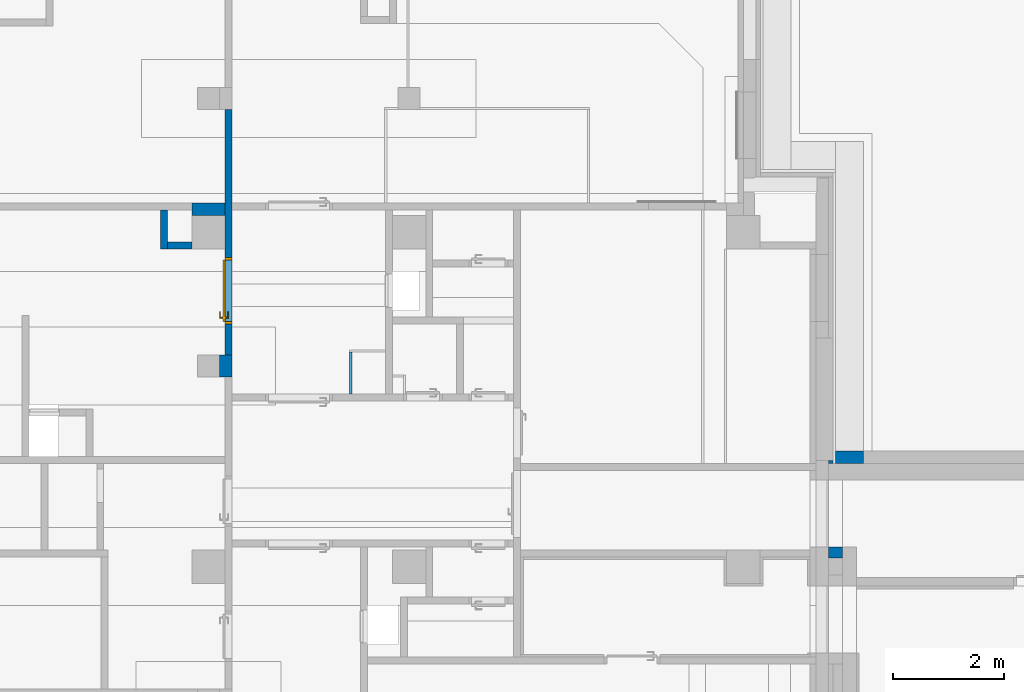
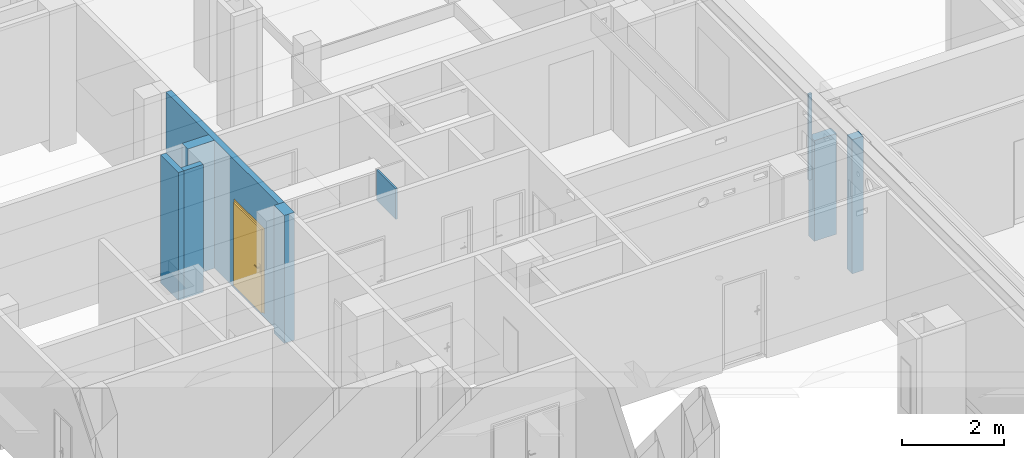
# One storey, part 36 of 84: 9 walls, 1 door, 1 opening.
"""IFC4 building model written with IfcOpenShell, lengths in metres."""

from ifc_helpers import new_model, entity, si_unit, converted_unit, derived_unit, frame, frame_2d, origin, origin_with_axes, place, context, subcontext, project, spatial, polyline, rectangle, outline, extrude, closed_shell, open_shell, surface_model, source, transform, mapped, material, layer, layer_set, layer_usage, type_object, element, fill, save


model = new_model("IFC4")

# Units and contexts
model_context = context("Model", 3, precision=1e-05, world=origin())
body_context = subcontext(model_context, "Body", "Model", "MODEL_VIEW")
ifc_project = project(units=[si_unit("LENGTHUNIT", "METRE"), si_unit("AREAUNIT", "SQUARE_METRE"), si_unit("VOLUMEUNIT", "CUBIC_METRE"), si_unit("MASSUNIT", "GRAM", prefix="KILO"), converted_unit("PLANEANGLEUNIT", "DEGREE", entity("IfcPlaneAngleMeasure", 0.0174532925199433), si_unit("PLANEANGLEUNIT", "RADIAN"), dimensions=[0, 0, 0, 0, 0, 0, 0]), derived_unit("THERMALTRANSMITTANCEUNIT", [(si_unit("POWERUNIT", "WATT"), 1), (si_unit("THERMODYNAMICTEMPERATUREUNIT", "KELVIN"), -1), (si_unit("LENGTHUNIT", "METRE"), -2)]), derived_unit("VOLUMETRICFLOWRATEUNIT", [(si_unit("LENGTHUNIT", "METRE"), 3), (converted_unit("TIMEUNIT", "hour", entity("IfcTimeMeasure", 3600.0), si_unit("TIMEUNIT", "SECOND"), dimensions=[0, 0, 1, 0, 0, 0, 0]), -1), (si_unit("LENGTHUNIT", "METRE"), -1)])], contexts=[model_context])

# Site, building, storey
site_placement = place(None, origin())
site = spatial("IfcSite", under=ifc_project, at=site_placement, Name="3. ASŘ", CompositionType="ELEMENT")
building_placement = place(site_placement, origin())
building = spatial("IfcBuilding", under=site, at=building_placement, Name="Pavilon C", CompositionType="ELEMENT")
storey_placement = place(building_placement, frame((0.0, 0.0, -3.3)))
storey = spatial("IfcBuildingStorey", under=building, at=storey_placement, Name="Půdorys 1.PP", CompositionType="ELEMENT", Elevation=-3.3)

# Walls
ifc_material_1 = material(Name="ZDIVO Z CDm")
ifc_layer_1 = layer(ifc_material_1, 0.225)
ifc_layer_set_1 = layer_set([ifc_layer_1])
ifc_layer_usage_1 = layer_usage(ifc_layer_set_1, "AXIS2", "POSITIVE", 0.0)
wall_1_placement = place(storey_placement, frame((40.05, 19.5, -0.1)))
element("IfcWall", 1, at=wall_1_placement, inside=storey, material=ifc_layer_usage_1, Name="ZDIVO Z CDm", context=body_context, shape_type="SweptSolid", body=[
    extrude(rectangle(XDim=0.6, YDim=0.225, at=frame_2d((0.3, 0.1125), x_axis=(1.0, 0.0))), origin_with_axes(), (0.0, 0.0, 1.0), 3.05),
])
ifc_material_2 = material(Name="SDK SVISLA CAST PODHLEDU")
ifc_layer_2 = layer(ifc_material_2, 0.04)
ifc_layer_set_2 = layer_set([ifc_layer_2])
ifc_layer_usage_2 = layer_usage(ifc_layer_set_2, "AXIS2", "POSITIVE", 0.0)
wall_2_placement = place(storey_placement, frame((42.925, 16.3, 2.22), z_axis=(0.0, 0.0, 1.0), x_axis=(0.0, 1.0, 0.0)))
element("IfcWall", 2, at=wall_2_placement, inside=storey, material=ifc_layer_usage_2, Name="SDK SVISLA CAST PODHLEDU", context=body_context, shape_type="SweptSolid", body=[
    extrude(rectangle(XDim=0.75, YDim=0.04, at=frame_2d((0.375, 0.02), x_axis=(1.0, 0.0))), origin_with_axes(), (0.0, 0.0, 1.0), 0.73),
])
ifc_material_3 = material(Name="ZDIVO Z CDm")
ifc_layer_3 = layer(ifc_material_3, 0.225)
ifc_layer_set_3 = layer_set([ifc_layer_3])
ifc_layer_usage_3 = layer_usage(ifc_layer_set_3, "AXIS2", "POSITIVE", 0.0)
wall_3_placement = place(storey_placement, frame((40.775, 16.6, -0.1), z_axis=(0.0, 0.0, 1.0), x_axis=(0.0, 1.0, 0.0)))
element("IfcWall", 3, at=wall_3_placement, inside=storey, material=ifc_layer_usage_3, Name="ZDIVO Z CDm", context=body_context, shape_type="SweptSolid", body=[
    extrude(rectangle(XDim=0.4, YDim=0.225, at=frame_2d((0.2, 0.1125), x_axis=(1.0, 0.0))), origin_with_axes(), (0.0, 0.0, 1.0), 3.05),
])

# Wall, opening, door
ifc_material_4 = material(Name="ZDIVO Z CDm")
ifc_layer_4 = layer(ifc_material_4, 0.125)
ifc_layer_set_4 = layer_set([ifc_layer_4])
ifc_layer_usage_4 = layer_usage(ifc_layer_set_4, "AXIS2", "POSITIVE", 0.0)
wall_4_placement = place(storey_placement, frame((40.65, 21.4, -0.1), z_axis=(0.0, 0.0, 1.0), x_axis=(0.0, -1.0, 0.0)))
wall_4 = element("IfcWall", 4, at=wall_4_placement, inside=storey, material=ifc_layer_usage_4, Name="ZDIVO Z CDm", context=body_context, shape_type="SweptSolid", body=[
    extrude(rectangle(XDim=4.4, YDim=0.125, at=frame_2d((2.2, 0.0625), x_axis=(1.0, 0.0))), origin_with_axes(), (0.0, 0.0, 1.0), 3.05),
])
opening_placement = place(wall_4_placement, frame((3.85000000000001, 0.125, 0.1), z_axis=(0.0, -1.0, 0.0), x_axis=(0.0, 0.0, 1.0)))
opening = element("IfcOpeningElement", 5, at=opening_placement, cuts=wall_4, Name="Dveřní otvor", ObjectType="Opening", context=body_context, shape_type="SweptSolid", body=[
    extrude(outline(polyline([(0.0, 1.2), (2.02, 1.2), (2.02, 0.0), (0.0, 0.0), (0.0, 1.2)])), origin_with_axes(), (0.0, 0.0, 1.0), 0.125),
])
door_type = type_object("IfcDoorType", Name="D101", OperationType="NOTDEFINED", ParameterTakesPrecedence=False, PredefinedType="DOOR")
shared_shape = source(origin_with_axes(), body_context, "Body", "SurfaceModel", [
    surface_model("IfcShellBasedSurfaceModel", [(0.0, 0.125, 2.02), (0.0, 0.125, -7.65404249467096e-18), (0.05, 0.125, -7.65404249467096e-18), (0.05, 0.125, 2.02), (0.0, 0.0, 7.65404249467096e-18), (0.0, 2.41584530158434e-16, 2.02), (0.05, 2.41584530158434e-16, 2.02), (0.05, 0.0, 7.65404249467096e-18)], [closed_shell([[[0, 1, 2, 3]], [[4, 5, 6, 7]], [[1, 0, 5, 4]], [[2, 1, 4, 7]], [[3, 2, 7, 6]], [[0, 3, 6, 5]]], orient=[[False], [False], [False], [False], [False], [False]])]),
    surface_model("IfcShellBasedSurfaceModel", [(1.15, 0.125, 2.02), (1.15, 0.125, -7.65404249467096e-18), (1.2, 0.125, -7.65404249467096e-18), (1.2, 0.125, 2.02), (1.15, 0.0, 7.65404249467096e-18), (1.15, 2.41584530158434e-16, 2.02), (1.2, 2.41584530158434e-16, 2.02), (1.2, 0.0, 7.65404249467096e-18)], [closed_shell([[[0, 1, 2, 3]], [[4, 5, 6, 7]], [[1, 0, 5, 4]], [[2, 1, 4, 7]], [[3, 2, 7, 6]], [[0, 3, 6, 5]]], orient=[[False], [False], [False], [False], [False], [False]])]),
    surface_model("IfcShellBasedSurfaceModel", [(0.05, 0.125, 2.02), (0.05, 0.125, 1.97), (1.15, 0.125, 1.97), (1.15, 0.125, 2.02), (0.05, 2.41584530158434e-16, 1.97), (0.05, 2.41584530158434e-16, 2.02), (1.15, 2.41584530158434e-16, 2.02), (1.15, 2.41584530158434e-16, 1.97)], [closed_shell([[[0, 1, 2, 3]], [[4, 5, 6, 7]], [[1, 0, 5, 4]], [[2, 1, 4, 7]], [[3, 2, 7, 6]], [[0, 3, 6, 5]]], orient=[[False], [False], [False], [False], [False], [False]])]),
    surface_model("IfcShellBasedSurfaceModel", [(0.05, 0.165, 1.97), (0.05, 0.165, -1.25526296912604e-17), (1.15, 0.165, -1.25526296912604e-17), (1.15, 0.165, 1.97), (0.05, 0.125, -7.65404249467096e-18), (0.05, 0.125, 1.97), (1.15, 0.125, 1.97), (1.15, 0.125, -7.65404249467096e-18)], [closed_shell([[[0, 1, 2, 3]], [[4, 5, 6, 7]], [[1, 0, 5, 4]], [[2, 1, 4, 7]], [[3, 2, 7, 6]], [[0, 3, 6, 5]]], orient=[[False], [False], [False], [False], [False], [False]])]),
    surface_model("IfcShellBasedSurfaceModel", [(1.06, 0.125, 1.125), (1.06, 0.125, 0.91), (1.11, 0.125, 0.91), (1.11, 0.125, 1.125), (1.06, 0.115, 0.91), (1.06, 0.115, 1.125), (1.11, 0.115, 1.125), (1.11, 0.115, 0.91)], [closed_shell([[[0, 1, 2, 3]], [[4, 5, 6, 7]], [[1, 0, 5, 4]], [[2, 1, 4, 7]], [[3, 2, 7, 6]], [[0, 3, 6, 5]]], orient=[[False], [False], [False], [False], [False], [False]])]),
    surface_model("IfcShellBasedSurfaceModel", [(1.085, 0.115, 1.06), (1.08, 0.115, 1.05866025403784), (1.07633974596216, 0.115, 1.055), (1.075, 0.115, 1.05), (1.07633974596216, 0.115, 1.045), (1.08, 0.115, 1.04133974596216), (1.085, 0.115, 1.04), (1.09, 0.115, 1.04133974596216), (1.09366025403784, 0.115, 1.045), (1.095, 0.115, 1.05), (1.09366025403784, 0.115, 1.055), (1.09, 0.115, 1.05866025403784), (1.09, 0.0700000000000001, 1.05866025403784), (1.085, 0.0750000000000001, 1.06), (1.09366025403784, 0.0663397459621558, 1.055), (1.095, 0.0650000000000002, 1.05), (1.09366025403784, 0.0663397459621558, 1.045), (1.09, 0.0700000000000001, 1.04133974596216), (1.085, 0.0750000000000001, 1.04), (1.08, 0.0800000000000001, 1.04133974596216), (1.07633974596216, 0.0836602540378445, 1.045), (1.075, 0.0850000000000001, 1.05), (1.07633974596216, 0.0836602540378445, 1.055), (1.08, 0.0800000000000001, 1.05866025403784), (0.97, 0.0700000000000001, 1.05866025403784), (0.97, 0.0750000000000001, 1.06), (0.97, 0.0663397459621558, 1.055), (0.97, 0.0650000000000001, 1.05), (0.97, 0.0663397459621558, 1.045), (0.97, 0.0700000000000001, 1.04133974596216), (0.97, 0.0750000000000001, 1.04), (0.97, 0.0800000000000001, 1.04133974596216), (0.97, 0.0836602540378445, 1.045), (0.97, 0.0850000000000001, 1.05), (0.97, 0.0836602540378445, 1.055), (0.97, 0.0800000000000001, 1.05866025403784)], [open_shell([[[0, 1, 2, 3, 4, 5, 6, 7, 8, 9, 10, 11]], [[0, 11, 12, 13]], [[11, 10, 14, 12]], [[10, 9, 15, 14]], [[9, 8, 16, 15]], [[8, 7, 17, 16]], [[7, 6, 18, 17]], [[6, 5, 19, 18]], [[5, 4, 20, 19]], [[4, 3, 21, 20]], [[3, 2, 22, 21]], [[2, 1, 23, 22]], [[1, 0, 13, 23]], [[13, 12, 24, 25]], [[12, 14, 26, 24]], [[14, 15, 27, 26]], [[15, 16, 28, 27]], [[16, 17, 29, 28]], [[17, 18, 30, 29]], [[18, 19, 31, 30]], [[19, 20, 32, 31]], [[20, 21, 33, 32]], [[21, 22, 34, 33]], [[22, 23, 35, 34]], [[23, 13, 25, 35]]], orient=[[False], [False], [False], [False], [False], [False], [False], [False], [False], [False], [False], [False], [False], [False], [False], [False], [False], [False], [False], [False], [False], [False], [False], [False], [False]])]),
    surface_model("IfcShellBasedSurfaceModel", [(1.06, 0.165, 1.125), (1.11, 0.165, 1.125), (1.11, 0.165, 0.91), (1.06, 0.165, 0.91), (1.06, 0.175, 0.91), (1.11, 0.175, 0.91), (1.11, 0.175, 1.125), (1.06, 0.175, 1.125)], [closed_shell([[[0, 1, 2, 3]], [[4, 5, 6, 7]], [[3, 4, 7, 0]], [[2, 5, 4, 3]], [[1, 6, 5, 2]], [[0, 7, 6, 1]]], orient=[[False], [False], [False], [False], [False], [False]])]),
    surface_model("IfcShellBasedSurfaceModel", [(1.085, 0.175, 1.06), (1.09, 0.175, 1.05866025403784), (1.09366025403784, 0.175, 1.055), (1.095, 0.175, 1.05), (1.09366025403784, 0.175, 1.045), (1.09, 0.175, 1.04133974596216), (1.085, 0.175, 1.04), (1.08, 0.175, 1.04133974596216), (1.07633974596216, 0.175, 1.045), (1.075, 0.175, 1.05), (1.07633974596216, 0.175, 1.055), (1.08, 0.175, 1.05866025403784), (1.085, 0.215, 1.06), (1.09, 0.22, 1.05866025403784), (1.09366025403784, 0.223660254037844, 1.055), (1.095, 0.225, 1.05), (1.09366025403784, 0.223660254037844, 1.045), (1.09, 0.22, 1.04133974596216), (1.085, 0.215, 1.04), (1.08, 0.21, 1.04133974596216), (1.07633974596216, 0.206339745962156, 1.045), (1.075, 0.205, 1.05), (1.07633974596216, 0.206339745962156, 1.055), (1.08, 0.21, 1.05866025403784), (0.97, 0.215, 1.06), (0.97, 0.22, 1.05866025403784), (0.97, 0.223660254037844, 1.055), (0.97, 0.225, 1.05), (0.97, 0.223660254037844, 1.045), (0.97, 0.22, 1.04133974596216), (0.97, 0.215, 1.04), (0.97, 0.21, 1.04133974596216), (0.97, 0.206339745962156, 1.045), (0.97, 0.205, 1.05), (0.97, 0.206339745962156, 1.055), (0.97, 0.21, 1.05866025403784)], [open_shell([[[0, 1, 2, 3, 4, 5, 6, 7, 8, 9, 10, 11]], [[0, 12, 13, 1]], [[1, 13, 14, 2]], [[2, 14, 15, 3]], [[3, 15, 16, 4]], [[4, 16, 17, 5]], [[5, 17, 18, 6]], [[6, 18, 19, 7]], [[7, 19, 20, 8]], [[8, 20, 21, 9]], [[9, 21, 22, 10]], [[10, 22, 23, 11]], [[11, 23, 12, 0]], [[12, 24, 25, 13]], [[13, 25, 26, 14]], [[14, 26, 27, 15]], [[15, 27, 28, 16]], [[16, 28, 29, 17]], [[17, 29, 30, 18]], [[18, 30, 31, 19]], [[19, 31, 32, 20]], [[20, 32, 33, 21]], [[21, 33, 34, 22]], [[22, 34, 35, 23]], [[23, 35, 24, 12]]], orient=[[False], [False], [False], [False], [False], [False], [False], [False], [False], [False], [False], [False], [False], [False], [False], [False], [False], [False], [False], [False], [False], [False], [False], [False], [False]])]),
])
door_placement = place(opening_placement, frame((0.0, 1.19999999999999, 1.45519152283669e-14), z_axis=(1.0, 0.0, 0.0), x_axis=(0.0, -1.0, 1.22464679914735e-16)))
door = element("IfcDoor", 6, at=door_placement, inside=storey, type_object=door_type, Name="D101", OverallHeight=2.02, OverallWidth=1.2, context=body_context, shape_type="MappedRepresentation", body=[
    mapped(shared_shape, transform((0.0, 0.0, 0.0), x_axis=(1.0, 0.0, 0.0), y_axis=(0.0, -1.0, 0.0), z_axis=(0.0, 0.0, 1.0), scale=1.0)),
])
fill(opening, door)

# Walls
ifc_material_5 = material(Name="ZDIVO Z CDm")
ifc_layer_5 = layer(ifc_material_5, 0.125)
ifc_layer_set_5 = layer_set([ifc_layer_5])
ifc_layer_usage_5 = layer_usage(ifc_layer_set_5, "AXIS2", "POSITIVE", 0.0)
wall_5_placement = place(storey_placement, frame((39.49, 19.6, -0.1), z_axis=(0.0, 0.0, 1.0), x_axis=(0.0, -1.0, 0.0)))
element("IfcWall", 7, at=wall_5_placement, inside=storey, material=ifc_layer_usage_5, Name="ZDIVO Z CDm", context=body_context, shape_type="SweptSolid", body=[
    extrude(rectangle(XDim=0.7, YDim=0.125, at=frame_2d((0.35, 0.0625), x_axis=(1.0, 0.0))), origin_with_axes(), (0.0, 0.0, 1.0), 3.05),
])
ifc_material_6 = material(Name="ZDIVO Z CDm")
ifc_layer_6 = layer(ifc_material_6, 0.125)
ifc_layer_set_6 = layer_set([ifc_layer_6])
ifc_layer_usage_6 = layer_usage(ifc_layer_set_6, "AXIS2", "POSITIVE", 0.0)
wall_6_placement = place(storey_placement, frame((39.615, 18.9, -0.1)))
element("IfcWall", 8, at=wall_6_placement, inside=storey, material=ifc_layer_usage_6, Name="ZDIVO Z CDm", context=body_context, shape_type="SweptSolid", body=[
    extrude(rectangle(XDim=0.435, YDim=0.125, at=frame_2d((0.2175, 0.0625), x_axis=(1.0, 0.0))), origin_with_axes(), (0.0, 0.0, 1.0), 3.05),
])
ifc_material_7 = material(Name="PERIMETR")
ifc_layer_7 = layer(ifc_material_7, 0.22)
ifc_layer_set_7 = layer_set([ifc_layer_7])
ifc_layer_usage_7 = layer_usage(ifc_layer_set_7, "AXIS2", "POSITIVE", 0.0)
wall_7_placement = place(storey_placement, frame((51.605, 15.05, -0.6)))
element("IfcWall", 9, at=wall_7_placement, inside=storey, material=ifc_layer_usage_7, Name="PERIMETR", context=body_context, shape_type="SweptSolid", body=[
    extrude(rectangle(XDim=0.5, YDim=0.22, at=frame_2d((0.25, 0.11), x_axis=(1.0, 0.0))), origin_with_axes(), (0.0, 0.0, 1.0), 2.4),
])
ifc_material_8 = material(Name="PERIMETR")
ifc_layer_8 = layer(ifc_material_8, 0.08)
ifc_layer_set_8 = layer_set([ifc_layer_8])
ifc_layer_usage_8 = layer_usage(ifc_layer_set_8, "AXIS2", "POSITIVE", 0.0)
wall_8_placement = place(storey_placement, frame((51.555, 15.05, 0.9), z_axis=(0.0, 0.0, 1.0), x_axis=(0.0, 1.0, 0.0)))
element("IfcWall", 10, at=wall_8_placement, inside=storey, material=ifc_layer_usage_8, Name="PERIMETR", context=body_context, shape_type="SweptSolid", body=[
    extrude(rectangle(XDim=0.0499999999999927, YDim=0.08, at=frame_2d((0.0249999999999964, 0.04), x_axis=(1.0, 0.0))), origin_with_axes(), (0.0, 0.0, 1.0), 2.05),
])
ifc_material_9 = material(Name="ZELEZOBETONOVÁ KCE")
ifc_layer_9 = layer(ifc_material_9, 0.2)
ifc_layer_set_9 = layer_set([ifc_layer_9])
ifc_layer_usage_9 = layer_usage(ifc_layer_set_9, "AXIS2", "POSITIVE", 0.0)
wall_9_placement = place(storey_placement, frame((51.73, 13.55, -0.3), z_axis=(0.0, 0.0, 1.0), x_axis=(-1.0, 0.0, 0.0)))
element("IfcWall", 11, at=wall_9_placement, inside=storey, material=ifc_layer_usage_9, Name="ZELEZOBETONOVÁ KCE", context=body_context, shape_type="SweptSolid", body=[
    extrude(rectangle(XDim=0.255, YDim=0.2, at=frame_2d((0.1275, 0.1), x_axis=(1.0, 0.0))), origin_with_axes(), (0.0, 0.0, 1.0), 3.2),
])

save(model, "model.ifc")
